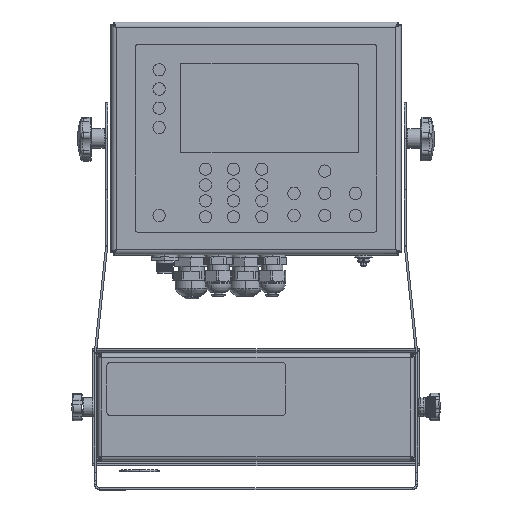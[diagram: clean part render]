
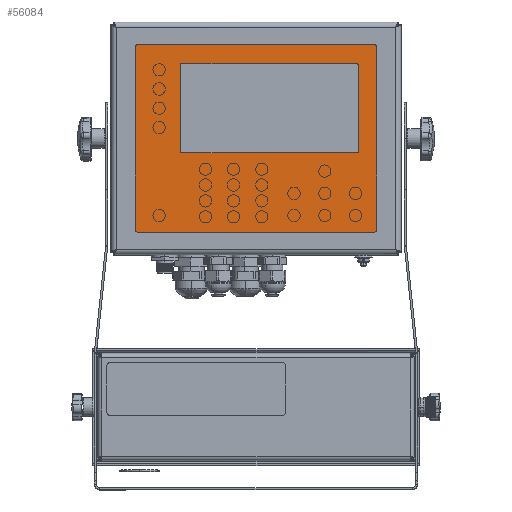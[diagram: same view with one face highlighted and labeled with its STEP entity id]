
A CAD part, top view. The second image highlights one B-rep face of the part: STEP entity #56084.
In plain terms, the highlighted planar face has unit normal (0, 0, 1).
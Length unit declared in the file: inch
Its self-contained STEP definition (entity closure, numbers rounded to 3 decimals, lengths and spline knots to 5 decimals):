
#377 = CARTESIAN_POINT ( 'NONE',  ( -3.285, -2.625, 0.045 ) ) ;
#637 = ORIENTED_EDGE ( 'NONE', *, *, #20421, .F. ) ;
#1601 = CARTESIAN_POINT ( 'NONE',  ( 2.83307, -0.37705, 0.045 ) ) ;
#2230 = CARTESIAN_POINT ( 'NONE',  ( 3.375, 2.535, 0.045 ) ) ;
#2388 = ORIENTED_EDGE ( 'NONE', *, *, #36750, .T. ) ;
#2817 = LINE ( 'NONE', #62437, #64675 ) ;
#3005 = CARTESIAN_POINT ( 'NONE',  ( -2.09693, 2.05295, 0.045 ) ) ;
#3880 = DIRECTION ( 'NONE',  ( -1., 0., 0. ) ) ;
#4546 = DIRECTION ( 'NONE',  ( 0., -1., 0. ) ) ;
#4864 = LINE ( 'NONE', #34900, #62064 ) ;
#5814 = EDGE_LOOP ( 'NONE', ( #68767, #21497, #2388, #71301, #50794, #37578, #56597, #53206 ) ) ;
#5872 = VERTEX_POINT ( 'NONE', #16796 ) ;
#5882 = DIRECTION ( 'NONE',  ( 0., 0., 1. ) ) ;
#6227 = ORIENTED_EDGE ( 'NONE', *, *, #47134, .F. ) ;
#6444 = VERTEX_POINT ( 'NONE', #377 ) ;
#6578 = DIRECTION ( 'NONE',  ( 0., 0., 1. ) ) ;
#8068 = LINE ( 'NONE', #44518, #70910 ) ;
#8594 = CARTESIAN_POINT ( 'NONE',  ( -2.09693, -0.40205, 0.045 ) ) ;
#9220 = EDGE_LOOP ( 'NONE', ( #76671, #637, #75864, #76147, #64565, #26981, #49429, #6227 ) ) ;
#9880 = CARTESIAN_POINT ( 'NONE',  ( -3.285, 2.535, 0.045 ) ) ;
#10800 = DIRECTION ( 'NONE',  ( -1., 0., 0. ) ) ;
#10877 = VERTEX_POINT ( 'NONE', #61363 ) ;
#11803 = CARTESIAN_POINT ( 'NONE',  ( -2.12193, 2.05295, 0.045 ) ) ;
#12056 = DIRECTION ( 'NONE',  ( 1., 0., 0. ) ) ;
#12166 = CARTESIAN_POINT ( 'NONE',  ( -2.09693, 2.07795, 0.045 ) ) ;
#12533 = PLANE ( 'NONE',  #70944 ) ;
#12936 = CARTESIAN_POINT ( 'NONE',  ( 2.85807, -0.37705, 0.045 ) ) ;
#14736 = CIRCLE ( 'NONE', #33688, 0.09 ) ;
#16796 = CARTESIAN_POINT ( 'NONE',  ( -3.375, -2.535, 0.045 ) ) ;
#16814 = VERTEX_POINT ( 'NONE', #25681 ) ;
#17667 = CARTESIAN_POINT ( 'NONE',  ( -2.09693, -0.37705, 0.045 ) ) ;
#18182 = DIRECTION ( 'NONE',  ( 1., 0., 0. ) ) ;
#18474 = VECTOR ( 'NONE', #29974, 39.37008 ) ;
#18839 = EDGE_CURVE ( 'NONE', #10877, #72852, #68391, .T. ) ;
#19703 = FACE_BOUND ( 'NONE', #9220, .T. ) ;
#20058 = VERTEX_POINT ( 'NONE', #24339 ) ;
#20276 = DIRECTION ( 'NONE',  ( 0., 0., 1. ) ) ;
#20356 = DIRECTION ( 'NONE',  ( 1., 0., 0. ) ) ;
#20421 = EDGE_CURVE ( 'NONE', #45148, #20058, #65807, .T. ) ;
#20692 = VERTEX_POINT ( 'NONE', #2230 ) ;
#20756 = DIRECTION ( 'NONE',  ( 1., 0., 0. ) ) ;
#20787 = DIRECTION ( 'NONE',  ( -1., 0., 0. ) ) ;
#21243 = AXIS2_PLACEMENT_3D ( 'NONE', #1601, #6578, #43196 ) ;
#21497 = ORIENTED_EDGE ( 'NONE', *, *, #38096, .T. ) ;
#21737 = AXIS2_PLACEMENT_3D ( 'NONE', #3005, #20276, #56232 ) ;
#22271 = CARTESIAN_POINT ( 'NONE',  ( -3.285, -2.535, 0.045 ) ) ;
#22407 = AXIS2_PLACEMENT_3D ( 'NONE', #24330, #36391, #12056 ) ;
#22617 = VECTOR ( 'NONE', #20787, 39.37008 ) ;
#23285 = CARTESIAN_POINT ( 'NONE',  ( 3.375, -2.535, 0.045 ) ) ;
#24330 = CARTESIAN_POINT ( 'NONE',  ( 3.285, -2.535, 0.045 ) ) ;
#24339 = CARTESIAN_POINT ( 'NONE',  ( 2.83307, 2.07795, 0.045 ) ) ;
#25009 = CARTESIAN_POINT ( 'NONE',  ( -2.09693, -0.40205, 0.045 ) ) ;
#25509 = VERTEX_POINT ( 'NONE', #25009 ) ;
#25681 = CARTESIAN_POINT ( 'NONE',  ( -3.285, 2.625, 0.045 ) ) ;
#26083 = VECTOR ( 'NONE', #20756, 39.37008 ) ;
#26558 = AXIS2_PLACEMENT_3D ( 'NONE', #17667, #5882, #18182 ) ;
#26981 = ORIENTED_EDGE ( 'NONE', *, *, #53877, .F. ) ;
#26997 = DIRECTION ( 'NONE',  ( 0., 1., 0. ) ) ;
#27605 = EDGE_CURVE ( 'NONE', #25509, #10877, #31374, .T. ) ;
#28165 = CIRCLE ( 'NONE', #21737, 0.025 ) ;
#28359 = AXIS2_PLACEMENT_3D ( 'NONE', #52330, #39694, #3880 ) ;
#28888 = LINE ( 'NONE', #50394, #26083 ) ;
#29120 = FACE_OUTER_BOUND ( 'NONE', #5814, .T. ) ;
#29974 = DIRECTION ( 'NONE',  ( -1., 0., 0. ) ) ;
#30611 = CARTESIAN_POINT ( 'NONE',  ( 3.285, -2.535, 0.045 ) ) ;
#31374 = LINE ( 'NONE', #8594, #57635 ) ;
#32605 = VERTEX_POINT ( 'NONE', #11803 ) ;
#33688 = AXIS2_PLACEMENT_3D ( 'NONE', #22271, #70317, #10800 ) ;
#34206 = DIRECTION ( 'NONE',  ( -1., 0., 0. ) ) ;
#34894 = DIRECTION ( 'NONE',  ( 0., 0., 1. ) ) ;
#34900 = CARTESIAN_POINT ( 'NONE',  ( -2.12193, 2.05295, 0.045 ) ) ;
#35749 = EDGE_CURVE ( 'NONE', #6444, #57372, #28888, .T. ) ;
#36360 = DIRECTION ( 'NONE',  ( 1., 0., 0. ) ) ;
#36391 = DIRECTION ( 'NONE',  ( 0., 0., 1. ) ) ;
#36750 = EDGE_CURVE ( 'NONE', #20692, #56459, #39954, .T. ) ;
#37554 = DIRECTION ( 'NONE',  ( 0., 1., 0. ) ) ;
#37578 = ORIENTED_EDGE ( 'NONE', *, *, #47146, .T. ) ;
#37624 = CARTESIAN_POINT ( 'NONE',  ( -2.12193, -0.37705, 0.045 ) ) ;
#38096 = EDGE_CURVE ( 'NONE', #46386, #20692, #8068, .T. ) ;
#38742 = CARTESIAN_POINT ( 'NONE',  ( 3.285, -2.625, 0.045 ) ) ;
#39694 = DIRECTION ( 'NONE',  ( 0., 0., 1. ) ) ;
#39845 = EDGE_CURVE ( 'NONE', #16814, #66144, #59421, .T. ) ;
#39954 = CIRCLE ( 'NONE', #57320, 0.09 ) ;
#43196 = DIRECTION ( 'NONE',  ( 1., 0., 0. ) ) ;
#44518 = CARTESIAN_POINT ( 'NONE',  ( 3.375, -2.535, 0.045 ) ) ;
#44617 = DIRECTION ( 'NONE',  ( 0., -1., 0. ) ) ;
#45148 = VERTEX_POINT ( 'NONE', #71059 ) ;
#45307 = CIRCLE ( 'NONE', #22407, 0.09 ) ;
#45556 = LINE ( 'NONE', #12166, #18474 ) ;
#46386 = VERTEX_POINT ( 'NONE', #23285 ) ;
#46420 = DIRECTION ( 'NONE',  ( -1., 0., 0. ) ) ;
#47134 = EDGE_CURVE ( 'NONE', #63652, #32605, #28165, .T. ) ;
#47146 = EDGE_CURVE ( 'NONE', #66144, #5872, #57236, .T. ) ;
#49429 = ORIENTED_EDGE ( 'NONE', *, *, #63355, .F. ) ;
#50394 = CARTESIAN_POINT ( 'NONE',  ( -3.285, -2.625, 0.045 ) ) ;
#50793 = LINE ( 'NONE', #69564, #22617 ) ;
#50794 = ORIENTED_EDGE ( 'NONE', *, *, #39845, .T. ) ;
#50948 = CARTESIAN_POINT ( 'NONE',  ( -3.375, -2.535, 0.045 ) ) ;
#51665 = EDGE_CURVE ( 'NONE', #57372, #46386, #45307, .T. ) ;
#52330 = CARTESIAN_POINT ( 'NONE',  ( 2.83307, 2.05295, 0.045 ) ) ;
#53206 = ORIENTED_EDGE ( 'NONE', *, *, #35749, .T. ) ;
#53877 = EDGE_CURVE ( 'NONE', #68994, #25509, #56926, .T. ) ;
#53974 = EDGE_CURVE ( 'NONE', #20058, #63652, #45556, .T. ) ;
#56084 = ADVANCED_FACE ( 'NONE', ( #29120, #19703 ), #12533, .T. ) ;
#56232 = DIRECTION ( 'NONE',  ( 1., 0., 0. ) ) ;
#56459 = VERTEX_POINT ( 'NONE', #76469 ) ;
#56597 = ORIENTED_EDGE ( 'NONE', *, *, #77108, .T. ) ;
#56822 = EDGE_CURVE ( 'NONE', #72852, #45148, #2817, .T. ) ;
#56926 = CIRCLE ( 'NONE', #26558, 0.025 ) ;
#57236 = LINE ( 'NONE', #50948, #68529 ) ;
#57320 = AXIS2_PLACEMENT_3D ( 'NONE', #64507, #34894, #46420 ) ;
#57372 = VERTEX_POINT ( 'NONE', #38742 ) ;
#57635 = VECTOR ( 'NONE', #20356, 39.37008 ) ;
#58445 = AXIS2_PLACEMENT_3D ( 'NONE', #9880, #70701, #34206 ) ;
#59421 = CIRCLE ( 'NONE', #58445, 0.09 ) ;
#61105 = CARTESIAN_POINT ( 'NONE',  ( -2.09693, 2.07795, 0.045 ) ) ;
#61363 = CARTESIAN_POINT ( 'NONE',  ( 2.83307, -0.40205, 0.045 ) ) ;
#62064 = VECTOR ( 'NONE', #4546, 39.37008 ) ;
#62437 = CARTESIAN_POINT ( 'NONE',  ( 2.85807, 2.05295, 0.045 ) ) ;
#63239 = EDGE_CURVE ( 'NONE', #56459, #16814, #50793, .T. ) ;
#63355 = EDGE_CURVE ( 'NONE', #32605, #68994, #4864, .T. ) ;
#63652 = VERTEX_POINT ( 'NONE', #61105 ) ;
#64395 = CARTESIAN_POINT ( 'NONE',  ( -3.375, 2.535, 0.045 ) ) ;
#64507 = CARTESIAN_POINT ( 'NONE',  ( 3.285, 2.535, 0.045 ) ) ;
#64565 = ORIENTED_EDGE ( 'NONE', *, *, #27605, .F. ) ;
#64675 = VECTOR ( 'NONE', #37554, 39.37008 ) ;
#65807 = CIRCLE ( 'NONE', #28359, 0.025 ) ;
#66144 = VERTEX_POINT ( 'NONE', #64395 ) ;
#66269 = DIRECTION ( 'NONE',  ( 0., 0., 1. ) ) ;
#68391 = CIRCLE ( 'NONE', #21243, 0.025 ) ;
#68529 = VECTOR ( 'NONE', #44617, 39.37008 ) ;
#68767 = ORIENTED_EDGE ( 'NONE', *, *, #51665, .T. ) ;
#68994 = VERTEX_POINT ( 'NONE', #37624 ) ;
#69564 = CARTESIAN_POINT ( 'NONE',  ( -3.285, 2.625, 0.045 ) ) ;
#70317 = DIRECTION ( 'NONE',  ( 0., 0., 1. ) ) ;
#70701 = DIRECTION ( 'NONE',  ( 0., 0., 1. ) ) ;
#70910 = VECTOR ( 'NONE', #26997, 39.37008 ) ;
#70944 = AXIS2_PLACEMENT_3D ( 'NONE', #30611, #66269, #36360 ) ;
#71059 = CARTESIAN_POINT ( 'NONE',  ( 2.85807, 2.05295, 0.045 ) ) ;
#71301 = ORIENTED_EDGE ( 'NONE', *, *, #63239, .T. ) ;
#72852 = VERTEX_POINT ( 'NONE', #12936 ) ;
#75864 = ORIENTED_EDGE ( 'NONE', *, *, #56822, .F. ) ;
#76147 = ORIENTED_EDGE ( 'NONE', *, *, #18839, .F. ) ;
#76469 = CARTESIAN_POINT ( 'NONE',  ( 3.285, 2.625, 0.045 ) ) ;
#76671 = ORIENTED_EDGE ( 'NONE', *, *, #53974, .F. ) ;
#77108 = EDGE_CURVE ( 'NONE', #5872, #6444, #14736, .T. ) ;
